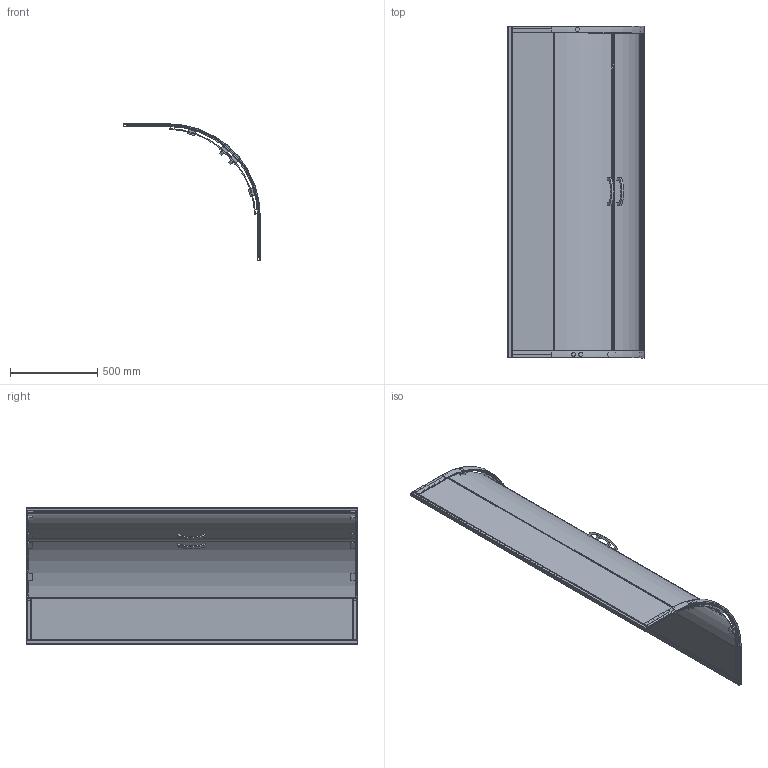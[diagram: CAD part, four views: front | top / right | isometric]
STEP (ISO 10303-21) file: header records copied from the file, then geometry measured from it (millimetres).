
FILE_DESCRIPTION (( 'STEP AP203' ), '1' );
FILE_NAME ('KP4_TRINNITY_80.STEP', '2019-08-21T10:37:01', ( '' ), ( '' ), 'SwSTEP 2.0', 'SolidWorks 2018', '' );
FILE_SCHEMA (( 'CONFIG_CONTROL_DESIGN' ));
Length unit declared in the file: millimetre
Products named in the file (1): KP4_TRINNITY_80
Bounding box: 782.5 x 1900 x 782.5 mm (x, y, z)
Volume: 13748743.1 mm3; surface area: 6895996.7 mm2
Topology: 26 solids, 26 shells, 478 faces, 1158 edges, 744 vertices
Faces by surface type: plane 314, cylinder 120, torus 36, cone 8
Entity records: 13897 total; most frequent: DIRECTION 2428, CARTESIAN_POINT 2381, ORIENTED_EDGE 2316, EDGE_CURVE 1158, VECTOR 846, LINE 846, AXIS2_PLACEMENT_3D 791, VERTEX_POINT 744
